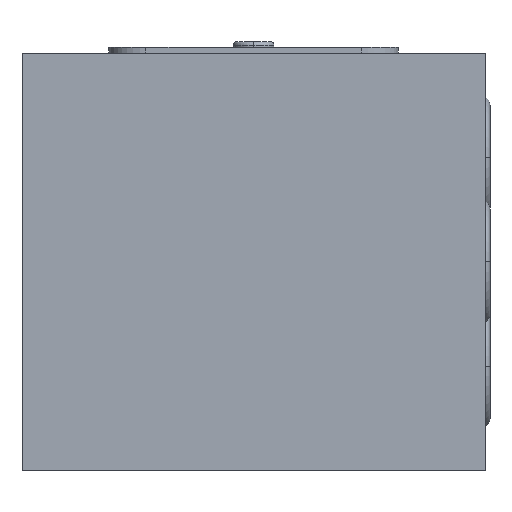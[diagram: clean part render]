
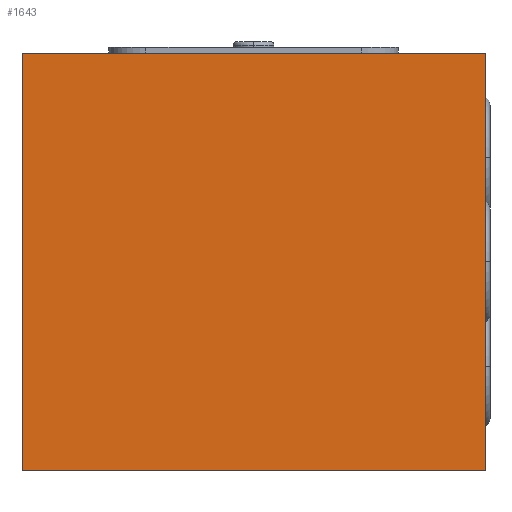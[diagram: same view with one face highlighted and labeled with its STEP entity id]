
A CAD part, left-side view. The second image highlights one B-rep face of the part: STEP entity #1643.
In plain terms, the highlighted planar face has unit normal (-1, 0, 0).
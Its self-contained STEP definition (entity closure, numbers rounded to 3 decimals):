
#54=DIRECTION('',(0.,0.,-1.));
#55=VECTOR('',#54,36.);
#56=CARTESIAN_POINT('',(0.,0.,0.));
#57=LINE('',#56,#55);
#58=DIRECTION('',(0.,1.,0.));
#59=VECTOR('',#58,40.);
#60=CARTESIAN_POINT('',(0.,0.,-36.));
#61=LINE('',#60,#59);
#62=DIRECTION('',(0.,0.,1.));
#63=VECTOR('',#62,36.);
#64=CARTESIAN_POINT('',(0.,40.,-36.));
#65=LINE('',#64,#63);
#66=DIRECTION('',(0.,-1.,0.));
#67=VECTOR('',#66,40.);
#68=CARTESIAN_POINT('',(0.,40.,0.));
#69=LINE('',#68,#67);
#1391=CARTESIAN_POINT('',(0.,0.,0.));
#1392=CARTESIAN_POINT('',(0.,0.,-36.));
#1393=VERTEX_POINT('',#1391);
#1394=VERTEX_POINT('',#1392);
#1395=CARTESIAN_POINT('',(0.,40.,-36.));
#1396=VERTEX_POINT('',#1395);
#1397=CARTESIAN_POINT('',(0.,40.,0.));
#1398=VERTEX_POINT('',#1397);
#1628=CARTESIAN_POINT('',(0.,0.,0.));
#1629=DIRECTION('',(1.,0.,0.));
#1630=DIRECTION('',(0.,0.,-1.));
#1631=AXIS2_PLACEMENT_3D('',#1628,#1629,#1630);
#1632=PLANE('',#1631);
#1634=ORIENTED_EDGE('',*,*,#1633,.T.);
#1636=ORIENTED_EDGE('',*,*,#1635,.T.);
#1638=ORIENTED_EDGE('',*,*,#1637,.T.);
#1640=ORIENTED_EDGE('',*,*,#1639,.T.);
#1641=EDGE_LOOP('',(#1634,#1636,#1638,#1640));
#1642=FACE_OUTER_BOUND('',#1641,.F.);
#1633=EDGE_CURVE('',#1393,#1394,#57,.T.);
#1635=EDGE_CURVE('',#1394,#1396,#61,.T.);
#1637=EDGE_CURVE('',#1396,#1398,#65,.T.);
#1639=EDGE_CURVE('',#1398,#1393,#69,.T.);
#1643=ADVANCED_FACE('',(#1642),#1632,.F.);
